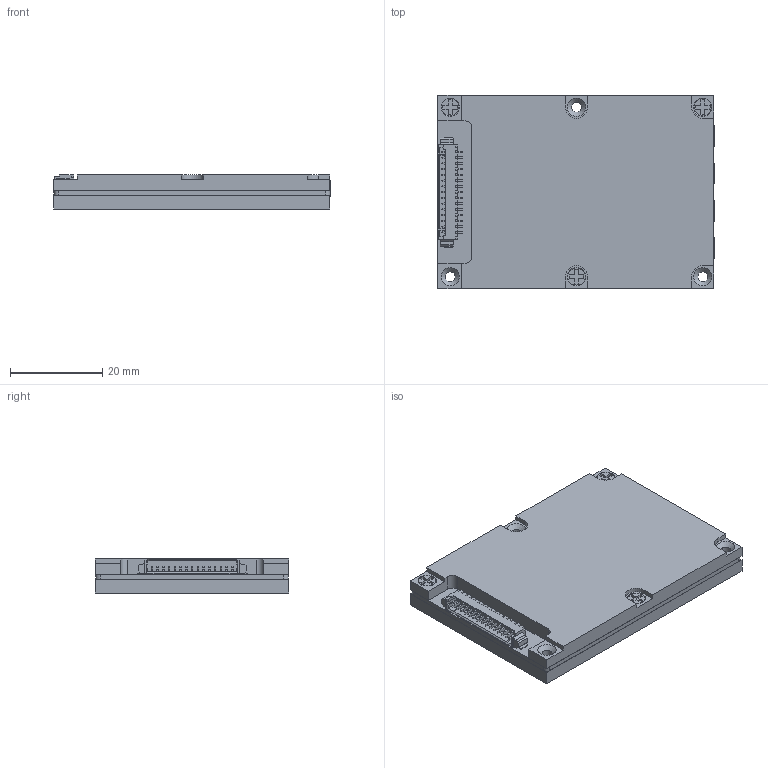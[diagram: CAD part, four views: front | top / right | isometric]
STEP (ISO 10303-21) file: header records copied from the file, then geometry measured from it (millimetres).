
FILE_DESCRIPTION(('FreeCAD Model'),'2;1');
FILE_NAME('X:/Progettazione/PROJECTS/R4320C/HARDWARE/Dati_cad_sito_web/R4320C_doc/R4320C_web.step','2019-07-12T15:59:45',('Author'),(''), 'Open CASCADE STEP processor 6.8','FreeCAD','Unknown');
FILE_SCHEMA(('AUTOMOTIVE_DESIGN_CC2 { 1 2 10303 214 -1 1 5 4 }'));
Length unit declared in the file: millimetre
Products named in the file (9): ASSEMBLY; R4320C_Printed_Board; R4320C_Top; R4320C_Bottom; JSMD15X1P125H340M90_BOX; JSMD1X1P180H240F0_MCX_EDGE003; VITE-TPS-M2x4_1; VITE-TPS-M2x4_2; VITE-TPS-M2x4_3
Assembly tree (11 placements, depth 2):
  ASSEMBLY
    R4320C_Printed_Board
    R4320C_Top
    R4320C_Bottom
    JSMD15X1P125H340M90_BOX
    JSMD1X1P180H240F0_MCX_EDGE003  x4
    VITE-TPS-M2x4_1
    VITE-TPS-M2x4_2
    VITE-TPS-M2x4_3
Bounding box: 60.04 x 42 x 7.4 mm (x, y, z)
Volume: 10904.4 mm3; surface area: 18436.4 mm2
Topology: 11 solids, 11 shells, 1034 faces, 2810 edges, 1852 vertices
Faces by surface type: plane 800, cylinder 189, cone 45
Full cylindrical faces by diameter (mm): 0.3 x2, 0.45 x4, 0.7 x8, 0.75 x7, 1.567 x4, 1.6 x4, 1.962 x3, 2.2 x16, 2.42 x4, 2.89 x4, 3.02 x4, 3.8 x3
Entity records: 76890 total; most frequent: CARTESIAN_POINT 27876, DIRECTION 8626, LINE 5894, VECTOR 5894, ORIENTED_EDGE 4894, PCURVE 4894, DEFINITIONAL_REPRESENTATION 4894, EDGE_CURVE 2447
